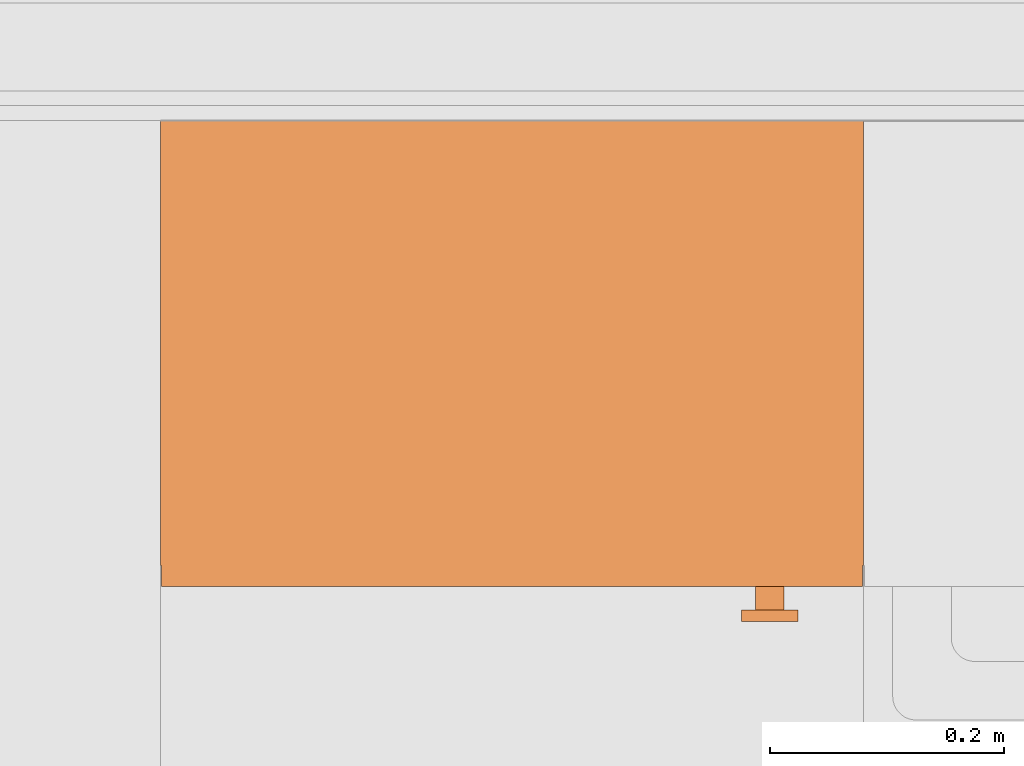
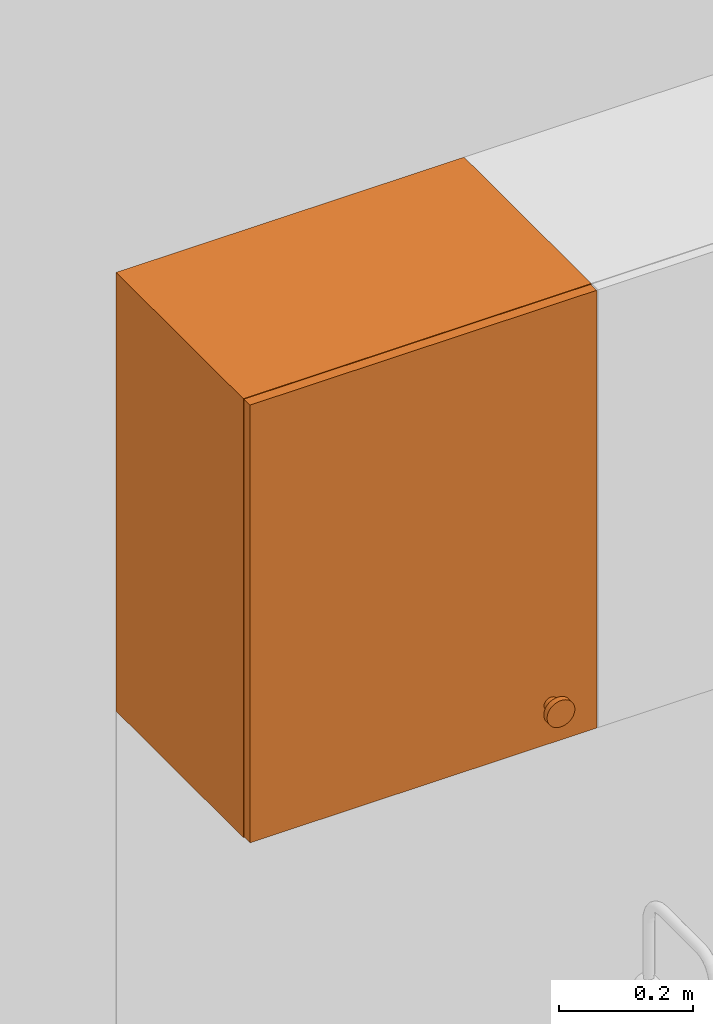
# One storey, part 118 of 137: 1 proxy.
"""IFC2X3 building model written with IfcOpenShell, lengths in millimetres."""

from ifc_helpers import new_model, entity, si_unit, converted_unit, derived_unit, money_unit, direction, frame, origin_with_axes, place, context, subcontext, project, spatial, faceted_brep, source, transform, mapped, type_object, type_shapes, element, save


model = new_model("IFC2X3")

# Units and contexts
model_context = context("Model", 3, precision=0.01, world=origin_with_axes(), true_north=direction((0.0, 1.0)))
body_context = subcontext(model_context, "Body", "Model", "MODEL_VIEW")
ifc_project = project(units=[si_unit("LENGTHUNIT", "METRE", prefix="MILLI"), si_unit("AREAUNIT", "SQUARE_METRE"), si_unit("VOLUMEUNIT", "CUBIC_METRE"), converted_unit("PLANEANGLEUNIT", "DEGREE", entity("IfcPlaneAngleMeasure", 0.0174532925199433), si_unit("PLANEANGLEUNIT", "RADIAN"), dimensions=[0, 0, 0, 0, 0, 0, 0]), money_unit("EUR"), converted_unit("TIMEUNIT", "Year", entity("IfcTimeMeasure", 31556926.0), si_unit("TIMEUNIT", "SECOND"), dimensions=[0, 0, 1, 0, 0, 0, 0]), si_unit("MASSUNIT", "GRAM", prefix="KILO"), si_unit("THERMODYNAMICTEMPERATUREUNIT", "DEGREE_CELSIUS"), si_unit("LUMINOUSINTENSITYUNIT", "LUMEN"), si_unit("ENERGYUNIT", "JOULE", prefix="MEGA"), derived_unit("THERMALCONDUCTANCEUNIT", [(si_unit("POWERUNIT", "WATT"), 1), (si_unit("LENGTHUNIT", "METRE"), -1), (si_unit("THERMODYNAMICTEMPERATUREUNIT", "KELVIN"), -1)]), derived_unit("SPECIFICHEATCAPACITYUNIT", [(si_unit("ENERGYUNIT", "JOULE"), 1), (si_unit("MASSUNIT", "GRAM", prefix="KILO"), -1), (si_unit("THERMODYNAMICTEMPERATUREUNIT", "KELVIN"), -1)]), derived_unit("MASSDENSITYUNIT", [(si_unit("MASSUNIT", "GRAM", prefix="KILO"), 1), (si_unit("VOLUMEUNIT", "CUBIC_METRE"), -1)])], contexts=[model_context])

# Site, building, storey
site_placement = place(None, origin_with_axes())
site = spatial("IfcSite", under=ifc_project, at=site_placement, Name="Site", CompositionType="ELEMENT")
building_placement = place(site_placement, origin_with_axes())
building = spatial("IfcBuilding", under=site, at=building_placement, Name="Naam gebouw", CompositionType="ELEMENT")
storey_placement = place(building_placement, frame((0.0, 0.0, 3960.0), z_axis=(0.0, 0.0, 1.0), x_axis=(1.0, 0.0, 0.0)))
storey = spatial("IfcBuildingStorey", under=building, at=storey_placement, Name="1e verdieping", CompositionType="ELEMENT", Elevation=3960.0)

# Proxy
building_element_proxy_type = type_object("IfcBuildingElementProxyType", Name="Bovenkast recht 26", PredefinedType="NOTDEFINED")
shared_shape = source(origin_with_axes(), body_context, "Body", "Brep", [
    faceted_brep([(18.0, -380.0, 1891.0), (582.0, -380.0, 1891.0), (582.0, -380.0, 1909.0), (18.0, -380.0, 1909.0), (18.0, -18.0, 1891.0), (582.0, -18.0, 1891.0), (582.0, -18.0, 1909.0), (18.0, -18.0, 1909.0)], [[[0, 1, 2, 3]], [[0, 4, 5, 1]], [[1, 5, 6, 2]], [[3, 2, 6, 7]], [[4, 0, 3, 7]], [[5, 4, 7, 6]]]),
    faceted_brep([(531.8176930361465, -398.0, 1570.916221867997), (531.2763114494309, -398.0, 1568.895758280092), (530.3923048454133, -398.0, 1567.0), (529.1925333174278, -398.0, 1565.286548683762), (527.7134513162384, -398.0, 1563.807466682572), (526.0, -398.0, 1562.607695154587), (524.104241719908, -398.0, 1561.723688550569), (522.0837781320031, -398.0, 1561.182306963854), (520.0, -398.0, 1561.0), (517.9162218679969, -398.0, 1561.182306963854), (515.8957582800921, -398.0, 1561.723688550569), (514.0, -398.0, 1562.607695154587), (512.2865486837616, -398.0, 1563.807466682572), (510.8074666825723, -398.0, 1565.286548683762), (509.6076951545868, -398.0, 1567.0), (508.7236885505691, -398.0, 1568.895758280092), (508.1823069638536, -398.0, 1570.916221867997), (508.0, -398.0, 1573.0), (508.1823069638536, -398.0, 1575.083778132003), (508.7236885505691, -398.0, 1577.104241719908), (509.6076951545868, -398.0, 1579.0), (510.8074666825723, -398.0, 1580.713451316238), (512.2865486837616, -398.0, 1582.192533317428), (514.0, -398.0, 1583.392304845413), (515.8957582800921, -398.0, 1584.276311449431), (517.9162218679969, -398.0, 1584.817693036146), (520.0, -398.0, 1585.0), (522.0837781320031, -398.0, 1584.817693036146), (524.104241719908, -398.0, 1584.276311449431), (526.0, -398.0, 1583.392304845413), (527.7134513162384, -398.0, 1582.192533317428), (529.1925333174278, -398.0, 1580.713451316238), (530.3923048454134, -398.0, 1579.0), (531.2763114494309, -398.0, 1577.104241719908), (531.8176930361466, -398.0, 1575.083778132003), (532.0, -398.0, 1573.0), (531.8176930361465, -418.0000000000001, 1570.916221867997), (531.2763114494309, -418.0000000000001, 1568.895758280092), (530.3923048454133, -418.0000000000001, 1567.0), (529.1925333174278, -418.0000000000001, 1565.286548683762), (527.7134513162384, -418.0000000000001, 1563.807466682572), (526.0, -418.0000000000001, 1562.607695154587), (524.104241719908, -418.0000000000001, 1561.723688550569), (522.0837781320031, -418.0000000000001, 1561.182306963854), (520.0, -418.0000000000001, 1561.0), (517.9162218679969, -418.0000000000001, 1561.182306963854), (515.8957582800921, -418.0000000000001, 1561.723688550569), (514.0, -418.0000000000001, 1562.607695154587), (512.2865486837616, -418.0000000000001, 1563.807466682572), (510.8074666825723, -418.0000000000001, 1565.286548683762), (509.6076951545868, -418.0000000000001, 1567.0), (508.7236885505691, -418.0000000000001, 1568.895758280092), (508.1823069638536, -418.0000000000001, 1570.916221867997), (508.0, -418.0000000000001, 1573.0), (508.1823069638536, -418.0000000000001, 1575.083778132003), (508.7236885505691, -418.0000000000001, 1577.104241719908), (509.6076951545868, -418.0000000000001, 1579.0), (510.8074666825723, -418.0000000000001, 1580.713451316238), (512.2865486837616, -418.0000000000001, 1582.192533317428), (514.0, -418.0000000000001, 1583.392304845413), (515.8957582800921, -418.0000000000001, 1584.276311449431), (517.9162218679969, -418.0000000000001, 1584.817693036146), (520.0, -418.0000000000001, 1585.0), (522.0837781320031, -418.0000000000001, 1584.817693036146), (524.104241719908, -418.0000000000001, 1584.276311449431), (526.0, -418.0000000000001, 1583.392304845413), (527.7134513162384, -418.0000000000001, 1582.192533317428), (529.1925333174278, -418.0000000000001, 1580.713451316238), (530.3923048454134, -418.0000000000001, 1579.0), (531.2763114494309, -418.0000000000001, 1577.104241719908), (531.8176930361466, -418.0000000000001, 1575.083778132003), (532.0, -418.0000000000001, 1573.0)], [[[0, 1, 2, 3, 4, 5, 6, 7, 8, 9, 10, 11, 12, 13, 14, 15, 16, 17, 18, 19, 20, 21, 22, 23, 24, 25, 26, 27, 28, 29, 30, 31, 32, 33, 34, 35]], [[1, 0, 36, 37]], [[2, 1, 37, 38]], [[3, 2, 38, 39]], [[4, 3, 39, 40]], [[5, 4, 40, 41]], [[6, 5, 41, 42]], [[7, 6, 42, 43]], [[8, 7, 43, 44]], [[9, 8, 44, 45]], [[10, 9, 45, 46]], [[11, 10, 46, 47]], [[12, 11, 47, 48]], [[13, 12, 48, 49]], [[14, 13, 49, 50]], [[15, 14, 50, 51]], [[16, 15, 51, 52]], [[17, 16, 52, 53]], [[18, 17, 53, 54]], [[19, 18, 54, 55]], [[20, 19, 55, 56]], [[21, 20, 56, 57]], [[22, 21, 57, 58]], [[23, 22, 58, 59]], [[24, 23, 59, 60]], [[25, 24, 60, 61]], [[26, 25, 61, 62]], [[27, 26, 62, 63]], [[28, 27, 63, 64]], [[29, 28, 64, 65]], [[30, 29, 65, 66]], [[31, 30, 66, 67]], [[32, 31, 67, 68]], [[33, 32, 68, 69]], [[34, 33, 69, 70]], [[35, 34, 70, 71]], [[0, 35, 71, 36]], [[36, 71, 70, 69, 68, 67, 66, 65, 64, 63, 62, 61, 60, 59, 58, 57, 56, 55, 54, 53, 52, 51, 50, 49, 48, 47, 46, 45, 44, 43, 42, 41, 40, 39, 38, 37]]]),
    faceted_brep([(543.635386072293, -418.0000000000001, 1568.832443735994), (542.5526228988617, -418.0000000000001, 1564.791516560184), (540.7846096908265, -418.0000000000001, 1561.0), (538.3850666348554, -418.0000000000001, 1557.573097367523), (535.426902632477, -418.0000000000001, 1554.614933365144), (532.0, -418.0000000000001, 1552.215390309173), (528.2084834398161, -418.0000000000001, 1550.447377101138), (524.1675562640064, -418.0000000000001, 1549.364613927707), (520.0, -418.0000000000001, 1549.0), (515.8324437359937, -418.0000000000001, 1549.364613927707), (511.7915165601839, -418.0000000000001, 1550.447377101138), (508.0, -418.0000000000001, 1552.215390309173), (504.5730973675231, -418.0000000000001, 1554.614933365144), (501.6149333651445, -418.0000000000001, 1557.573097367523), (499.2153903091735, -418.0000000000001, 1561.0), (497.4473771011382, -418.0000000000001, 1564.791516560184), (496.364613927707, -418.0000000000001, 1568.832443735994), (496.0000000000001, -418.0000000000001, 1573.0), (496.364613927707, -418.0000000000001, 1577.167556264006), (497.4473771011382, -418.0000000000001, 1581.208483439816), (499.2153903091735, -418.0000000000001, 1585.0), (501.6149333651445, -418.0000000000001, 1588.426902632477), (504.5730973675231, -418.0000000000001, 1591.385066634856), (508.0, -418.0000000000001, 1593.784609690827), (511.7915165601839, -418.0000000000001, 1595.552622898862), (515.8324437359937, -418.0000000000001, 1596.635386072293), (520.0, -418.0000000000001, 1597.0), (524.1675562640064, -418.0000000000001, 1596.635386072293), (528.2084834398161, -418.0000000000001, 1595.552622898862), (532.0, -418.0000000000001, 1593.784609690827), (535.426902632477, -418.0000000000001, 1591.385066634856), (538.3850666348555, -418.0000000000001, 1588.426902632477), (540.7846096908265, -418.0000000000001, 1585.0), (542.5526228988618, -418.0000000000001, 1581.208483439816), (543.635386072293, -418.0000000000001, 1577.167556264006), (544.0, -418.0000000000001, 1573.0), (543.635386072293, -428.0000000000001, 1568.832443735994), (542.5526228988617, -428.0000000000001, 1564.791516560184), (540.7846096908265, -428.0000000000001, 1561.0), (538.3850666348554, -428.0000000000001, 1557.573097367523), (535.426902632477, -428.0000000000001, 1554.614933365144), (532.0, -428.0000000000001, 1552.215390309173), (528.2084834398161, -428.0000000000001, 1550.447377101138), (524.1675562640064, -428.0000000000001, 1549.364613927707), (520.0, -428.0000000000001, 1549.0), (515.8324437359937, -428.0000000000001, 1549.364613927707), (511.7915165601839, -428.0000000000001, 1550.447377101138), (508.0, -428.0000000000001, 1552.215390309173), (504.5730973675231, -428.0000000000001, 1554.614933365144), (501.6149333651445, -428.0000000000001, 1557.573097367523), (499.2153903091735, -428.0000000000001, 1561.0), (497.4473771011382, -428.0000000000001, 1564.791516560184), (496.364613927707, -428.0000000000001, 1568.832443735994), (496.0000000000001, -428.0000000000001, 1573.0), (496.364613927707, -428.0000000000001, 1577.167556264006), (497.4473771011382, -428.0000000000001, 1581.208483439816), (499.2153903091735, -428.0000000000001, 1585.0), (501.6149333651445, -428.0000000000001, 1588.426902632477), (504.5730973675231, -428.0000000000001, 1591.385066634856), (508.0, -428.0000000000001, 1593.784609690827), (511.7915165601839, -428.0000000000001, 1595.552622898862), (515.8324437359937, -428.0000000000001, 1596.635386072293), (520.0, -428.0000000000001, 1597.0), (524.1675562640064, -428.0000000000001, 1596.635386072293), (528.2084834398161, -428.0000000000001, 1595.552622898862), (532.0, -428.0000000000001, 1593.784609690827), (535.426902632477, -428.0000000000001, 1591.385066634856), (538.3850666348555, -428.0000000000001, 1588.426902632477), (540.7846096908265, -428.0000000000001, 1585.0), (542.5526228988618, -428.0000000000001, 1581.208483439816), (543.635386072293, -428.0000000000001, 1577.167556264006), (544.0, -428.0000000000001, 1573.0)], [[[0, 1, 2, 3, 4, 5, 6, 7, 8, 9, 10, 11, 12, 13, 14, 15, 16, 17, 18, 19, 20, 21, 22, 23, 24, 25, 26, 27, 28, 29, 30, 31, 32, 33, 34, 35]], [[1, 0, 36, 37]], [[2, 1, 37, 38]], [[3, 2, 38, 39]], [[4, 3, 39, 40]], [[5, 4, 40, 41]], [[6, 5, 41, 42]], [[7, 6, 42, 43]], [[8, 7, 43, 44]], [[9, 8, 44, 45]], [[10, 9, 45, 46]], [[11, 10, 46, 47]], [[12, 11, 47, 48]], [[13, 12, 48, 49]], [[14, 13, 49, 50]], [[15, 14, 50, 51]], [[16, 15, 51, 52]], [[17, 16, 52, 53]], [[18, 17, 53, 54]], [[19, 18, 54, 55]], [[20, 19, 55, 56]], [[21, 20, 56, 57]], [[22, 21, 57, 58]], [[23, 22, 58, 59]], [[24, 23, 59, 60]], [[25, 24, 60, 61]], [[26, 25, 61, 62]], [[27, 26, 62, 63]], [[28, 27, 63, 64]], [[29, 28, 64, 65]], [[30, 29, 65, 66]], [[31, 30, 66, 67]], [[32, 31, 67, 68]], [[33, 32, 68, 69]], [[34, 33, 69, 70]], [[35, 34, 70, 71]], [[0, 35, 71, 36]], [[36, 71, 70, 69, 68, 67, 66, 65, 64, 63, 62, 61, 60, 59, 58, 57, 56, 55, 54, 53, 52, 51, 50, 49, 48, 47, 46, 45, 44, 43, 42, 41, 40, 39, 38, 37]]]),
    faceted_brep([(1.0, -380.0, 1501.0), (599.0, -380.0, 1501.0), (599.0, -398.0, 1501.0), (1.0, -398.0, 1501.0), (1.0, -379.9999999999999, 2299.0), (599.0, -379.9999999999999, 2299.0), (599.0, -397.9999999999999, 2299.0), (1.0, -397.9999999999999, 2299.0)], [[[0, 1, 2, 3]], [[0, 4, 5, 1]], [[1, 5, 6, 2]], [[3, 2, 6, 7]], [[4, 0, 3, 7]], [[5, 4, 7, 6]]]),
    faceted_brep([(18.0, -380.0, 1500.0), (582.0, -380.0, 1500.0), (582.0, -380.0, 1518.0), (18.0, -380.0, 1518.0), (18.0, 0.0, 1500.0), (582.0, 0.0, 1500.0), (582.0, 0.0, 1518.0), (18.0, 0.0, 1518.0)], [[[0, 1, 2, 3]], [[0, 4, 5, 1]], [[1, 5, 6, 2]], [[3, 2, 6, 7]], [[4, 0, 3, 7]], [[5, 4, 7, 6]]]),
    faceted_brep([(18.0, -380.0, 2282.0), (582.0, -380.0, 2282.0), (582.0, -380.0, 2300.0), (18.0, -380.0, 2300.0), (18.0, 0.0, 2282.0), (582.0, 0.0, 2282.0), (582.0, 0.0, 2300.0), (18.0, 0.0, 2300.0)], [[[0, 1, 2, 3]], [[0, 4, 5, 1]], [[1, 5, 6, 2]], [[3, 2, 6, 7]], [[4, 0, 3, 7]], [[5, 4, 7, 6]]]),
    faceted_brep([(0.0, 0.0, 1500.0), (0.0, -380.0, 1500.0), (0.0, -380.0, 2300.0), (0.0, 0.0, 2300.0), (18.0, 0.0, 1500.0), (18.0, -380.0, 1500.0), (18.0, -380.0, 2300.0), (18.0, 0.0, 2300.0)], [[[0, 1, 2, 3]], [[0, 4, 5, 1]], [[1, 5, 6, 2]], [[3, 2, 6, 7]], [[4, 0, 3, 7]], [[5, 4, 7, 6]]]),
    faceted_brep([(600.0, -380.0, 1500.0), (600.0, 0.0, 1500.0), (600.0, 0.0, 2300.0), (600.0, -380.0, 2300.0), (582.0, -380.0, 1500.0), (582.0, 0.0, 1500.0), (582.0, 0.0, 2300.0), (582.0, -380.0, 2300.0)], [[[0, 1, 2, 3]], [[0, 4, 5, 1]], [[1, 5, 6, 2]], [[3, 2, 6, 7]], [[4, 0, 3, 7]], [[5, 4, 7, 6]]]),
    faceted_brep([(582.0, -9.0, 1518.0), (18.00000000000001, -9.0, 1518.0), (18.00000000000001, -9.0, 2282.0), (582.0, -9.0, 2282.0), (582.0, -18.0, 1518.0), (18.00000000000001, -18.0, 1518.0), (18.00000000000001, -18.0, 2282.0), (582.0, -18.0, 2282.0)], [[[0, 1, 2, 3]], [[0, 4, 5, 1]], [[1, 5, 6, 2]], [[3, 2, 6, 7]], [[4, 0, 3, 7]], [[5, 4, 7, 6]]]),
])
type_shapes(building_element_proxy_type, [shared_shape])
proxy_placement = place(storey_placement, frame((27886.00001122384, 8715.0, 299.9999999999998), z_axis=(0.0, 0.0, 1.0), x_axis=(1.0, 0.0, 0.0)))
element("IfcBuildingElementProxy", 1, at=proxy_placement, inside=storey, type_object=building_element_proxy_type, Name="_Leeg", context=body_context, shape_type="MappedRepresentation", body=[
    mapped(shared_shape, transform((0.0, 0.0, 0.0))),
])

save(model, "model.ifc")
